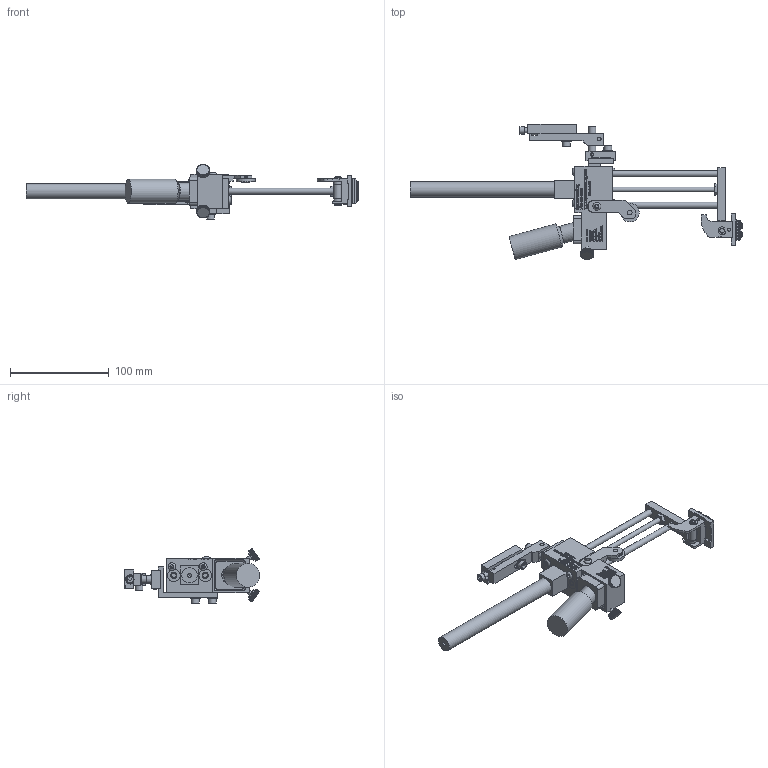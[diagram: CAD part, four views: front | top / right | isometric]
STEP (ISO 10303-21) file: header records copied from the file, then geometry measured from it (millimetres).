
FILE_DESCRIPTION((''),'2;1');
FILE_NAME('C:\Documents and Settings\Ron\My Documents\Inventor\Sprinter Drawing\Machines in Inventor\Model 88\Type\Ext Str\E2\Brkt\Ext\Model 88 ES 2 ext w brkt mod 2012.stp','2012-03-16T13:48:34',('Ron'),(''),'Autodesk Inventor 2011','Autodesk Inventor 2011','');
FILE_SCHEMA(('AUTOMOTIVE_DESIGN { 1 0 10303 214 1 1 1 1 }'));
Length unit declared in the file: inch
Products named in the file (43): Model 88  ES 2 ext w brkt mod 2012; 88 Frame Body; 66 Linear Bearing; Hexagon Socket Button Head Cap Screw - Inch 8 - 32 x 1/4; Hexagon Socket Head Cap Screw - Inch No. 8 - 32 UNC - 1 1/2; 10 Ink Resevior Lock Screw; INK RESERVOIR ASSY; 88 RESERVOIR; 88 Ink Pad; 66 INK BOTTLE; 88 STD Wheel Bractet Assy (prototype); 44 Wheel Retainer; 44 Cam Wheel; 88 Wheel Bracket Arm (prototype); Hexagon Socket Set Screw - Flat Point - Inch 4-48 UNF x 0.19; 8-32x0.25 Hexagon Socket Button Head Cap Screw ANSI/ASME B18.3; E2 Extended; 88 Rod Carrier Extended ES 2; 88 Rod Carrier; Type A - Hexagon Socket Set Screw - Cup Point - Inch 8-32 UNC x 0.32; 66 PIVOT SHAFT; 66 PIVOT SHAFT LOCKING RING; 23 66 invert block; AS 1112 (4)  - Metric M6; 66 Spring; 19 Rod Carrier Set Screws; 88 CLIP FOR MODELS(2); 88--CLIP plate; Hexagon Socket Set Screw - Flat Point - Inch 6-32 UNC x 0.45; 88 baselock (model sized); 88 baselock STAMP; E2; Model 88 RPB; rpb4; rpb3; rpb-1; rpb2; No. 10-24x0.88 Hexagon socket head cap screw ANSI/ASME B18.3; Type B - Plain Washer (Inch) No. 10 - narrow - Type B; 66 Machine Mounting Pivot Bracket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
Assembly tree (58 placements, depth 4):
  Model 88  ES 2 ext w brkt mod 2012
    88 Frame Body
    66 Linear Bearing  x2
    Hexagon Socket Button Head Cap Screw - Inch 8 - 32 x 1/4  x4
    Hexagon Socket Head Cap Screw - Inch No. 8 - 32 UNC - 1 1/2  x2
    10 Ink Resevior Lock Screw  x2
    INK RESERVOIR ASSY
      88 RESERVOIR
      88 Ink Pad
      66 INK BOTTLE
    88 STD Wheel Bractet Assy (prototype)
      44 Wheel Retainer
      44 Cam Wheel
      88 Wheel Bracket Arm (prototype)
      Hexagon Socket Set Screw - Flat Point - Inch 4-48 UNF x 0.19
    8-32x0.25 Hexagon Socket Button Head Cap Screw ANSI/ASME B18.3
    E2 Extended
    88 Rod Carrier Extended ES 2
      88 Rod Carrier
      Type A - Hexagon Socket Set Screw - Cup Point - Inch 8-32 UNC x 0.32
      66 PIVOT SHAFT
      66 PIVOT SHAFT LOCKING RING  x2
      23 66 invert block
      AS 1112 (4)  - Metric M6
      66 Spring
      19 Rod Carrier Set Screws  x2
      88 CLIP FOR MODELS(2)
        88--CLIP plate
        Hexagon Socket Set Screw - Flat Point - Inch 6-32 UNC x 0.45
        88 baselock (model sized)
        88 baselock STAMP
      E2  x2
    Model 88 RPB
      rpb4
      rpb3
      rpb-1
      rpb2
      No. 10-24x0.88 Hexagon socket head cap screw ANSI/ASME B18.3  x5
      Type B - Plain Washer (Inch) No. 10 - narrow - Type B  x4
      66 Machine Mounting Pivot Bracket
      Pin - Hardened Ground Machine Dowel (Inch) 1/8 x 3/4
      Pin - Hardened Ground Machine Dowel (Inch) 1/8 x 3/8
    10-32 PORTS DECAL
Bounding box: 335.86 x 136.58 x 55.4 mm (x, y, z)
Volume: 212599.8 mm3; surface area: 101865.3 mm2
Topology: 426 solids, 426 shells, 6401 faces, 15693 edges, 9719 vertices
Faces by surface type: plane 4457, bspline 1294, cylinder 560, cone 67, torus 23
Full cylindrical faces by diameter (mm): 1.143 x1, 2.261 x1, 2.54 x2, 2.642 x1, 2.845 x1, 3.175 x4, 3.2 x1, 3.302 x14, 3.505 x1, 3.556 x1, 3.683 x2, 3.962 x10, 4.064 x2, 4.166 x10, 4.547 x2, 4.699 x3, 4.75 x4, 4.775 x2, 4.826 x8, 4.864 x2, 4.917 x1, 5.055 x1, 5.156 x7, 5.359 x1, 5.556 x1, 6.223 x2, 6.325 x4, 6.35 x5, 6.426 x1, 6.604 x1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
Entity records: 152441 total; most frequent: CARTESIAN_POINT 45342, ORIENTED_EDGE 23844, DIRECTION 17236, EDGE_CURVE 11922, VECTOR 8520, LINE 8520, VERTEX_POINT 7658, EDGE_LOOP 5338
